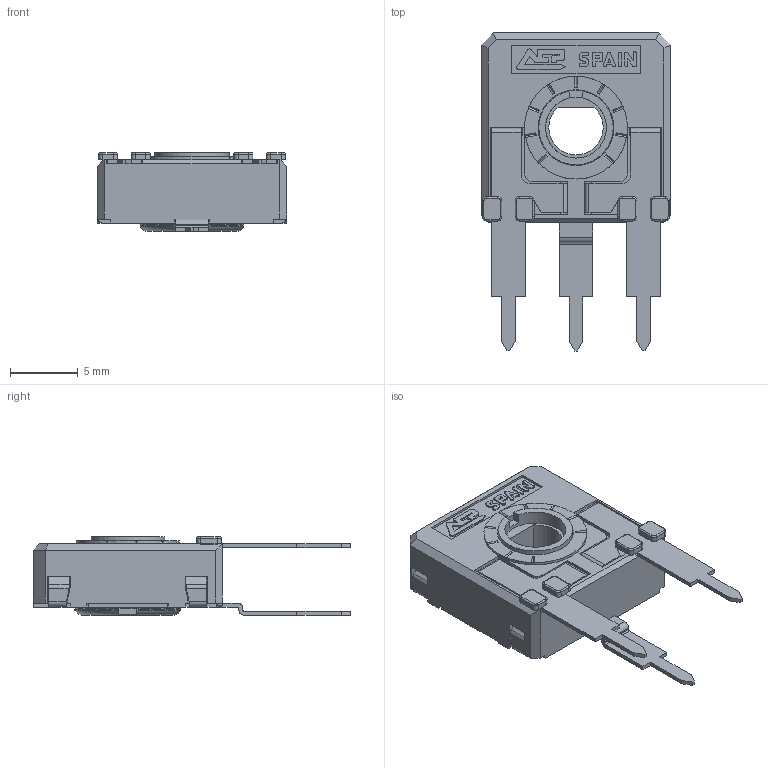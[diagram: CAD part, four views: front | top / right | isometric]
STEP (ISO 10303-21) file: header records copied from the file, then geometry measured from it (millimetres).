
FILE_DESCRIPTION(/* description */ (''),/* implementation_level */ '2;1');
FILE_NAME(/* name */ '\\SERVERACP\intercambio\Ignacio Santa Cecilia\Nueva WEB 2025\CA14 - CE14\CA14FHA5 RT-RO.stp',/* time_stamp */ '2025-06-12T09:48:41+02:00',/* author */ ('CEM'),/* organization */ (''),/* preprocessor_version */ 'ST-DEVELOPER v17',/* originating_system */ 'Autodesk Inventor 2018',/* authorisation */ '');
FILE_SCHEMA (('AUTOMOTIVE_DESIGN { 1 0 10303 214 3 1 1 }'));
Length unit declared in the file: millimetre
Products named in the file (1): CARCASA CA14 PGA
Bounding box: 14 x 23.5 x 5.8 mm (x, y, z)
Volume: 534.8 mm3; surface area: 1495 mm2
Topology: 1 solids, 1 shells, 664 faces, 1875 edges, 1207 vertices
Faces by surface type: plane 493, cylinder 134, torus 23, bspline 8, cone 6
Full cylindrical faces by diameter (mm): 4.5 x1, 5.5 x1, 5.6 x1, 5.752 x1, 6.8 x1, 7.6 x1
Entity records: 21677 total; most frequent: CARTESIAN_POINT 4044, ORIENTED_EDGE 3750, DIRECTION 3497, EDGE_CURVE 1875, LINE 1477, VECTOR 1477, VERTEX_POINT 1207, AXIS2_PLACEMENT_3D 1010
